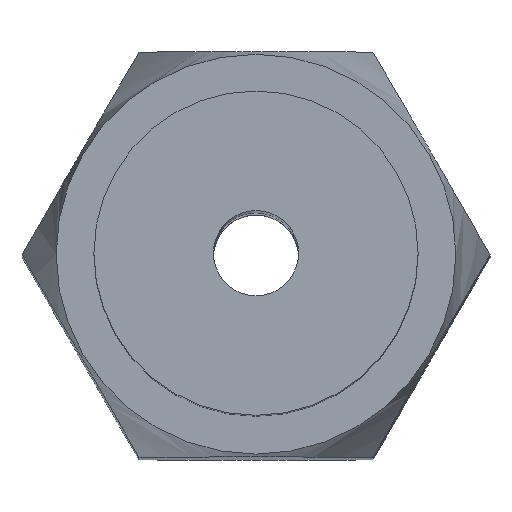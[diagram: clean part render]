
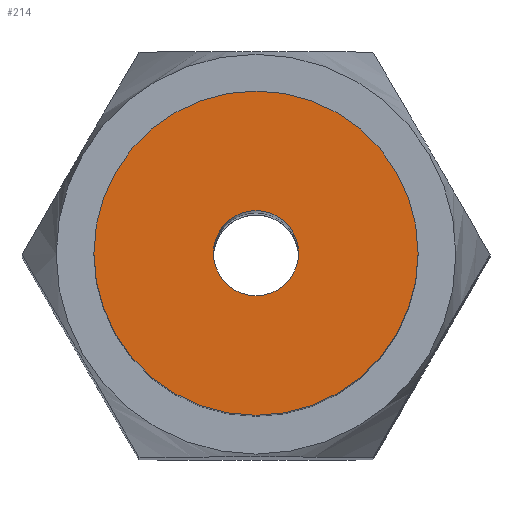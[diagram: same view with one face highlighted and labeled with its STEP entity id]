
A CAD part, top view. The second image highlights one B-rep face of the part: STEP entity #214.
In plain terms, the highlighted planar face has unit normal (0, 0, 1).
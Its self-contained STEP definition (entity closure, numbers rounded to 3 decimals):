
#163=CARTESIAN_POINT('',(1.05,0.0,35.0));
#164=VERTEX_POINT('',#163);
#165=CARTESIAN_POINT('',(0.0,0.0,35.0));
#166=DIRECTION('',(0.0,0.0,-1.0));
#167=DIRECTION('',(1.0,0.0,0.0));
#168=AXIS2_PLACEMENT_3D('',#165,#166,#167);
#169=CIRCLE('',#168,1.05);
#170=EDGE_CURVE('',#164,#164,#169,.T.);
#180=CARTESIAN_POINT('',(4.0,0.,35.0));
#181=VERTEX_POINT('',#180);
#182=CARTESIAN_POINT('',(0.0,0.0,35.0));
#183=DIRECTION('',(0.0,0.0,-1.0));
#184=DIRECTION('',(-1.0,0.0,0.0));
#185=AXIS2_PLACEMENT_3D('',#182,#183,#184);
#186=CIRCLE('',#185,4.0);
#187=EDGE_CURVE('',#181,#181,#186,.T.);
#203=CARTESIAN_POINT('',(0.0,0.0,35.0));
#204=DIRECTION('',(0.0,0.0,-1.0));
#205=DIRECTION('',(-1.0,0.0,0.0));
#206=AXIS2_PLACEMENT_3D('',#203,#204,#205);
#207=PLANE('',#206);
#208=ORIENTED_EDGE('',*,*,#187,.F.);
#209=EDGE_LOOP('',(#208));
#210=FACE_OUTER_BOUND('',#209,.T.);
#211=ORIENTED_EDGE('',*,*,#170,.T.);
#212=EDGE_LOOP('',(#211));
#213=FACE_BOUND('',#212,.T.);
#214=ADVANCED_FACE('',(#210,#213),#207,.F.);
